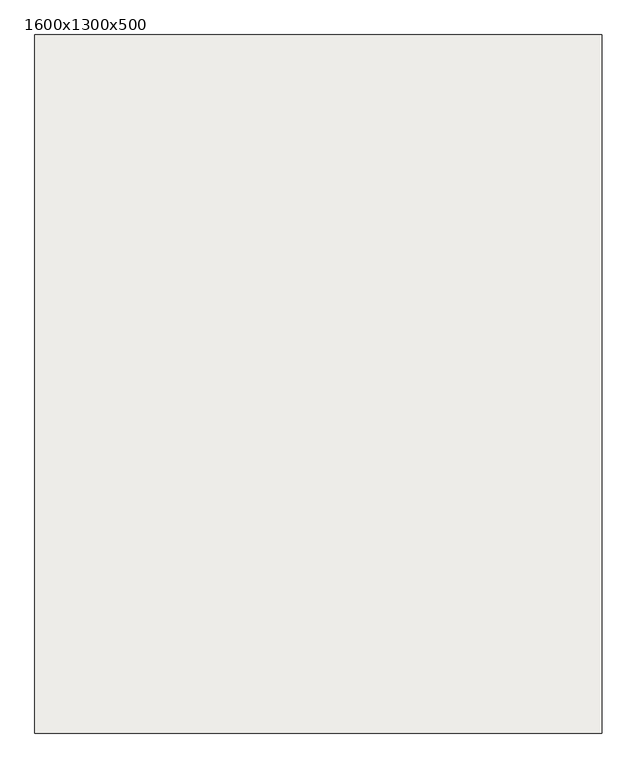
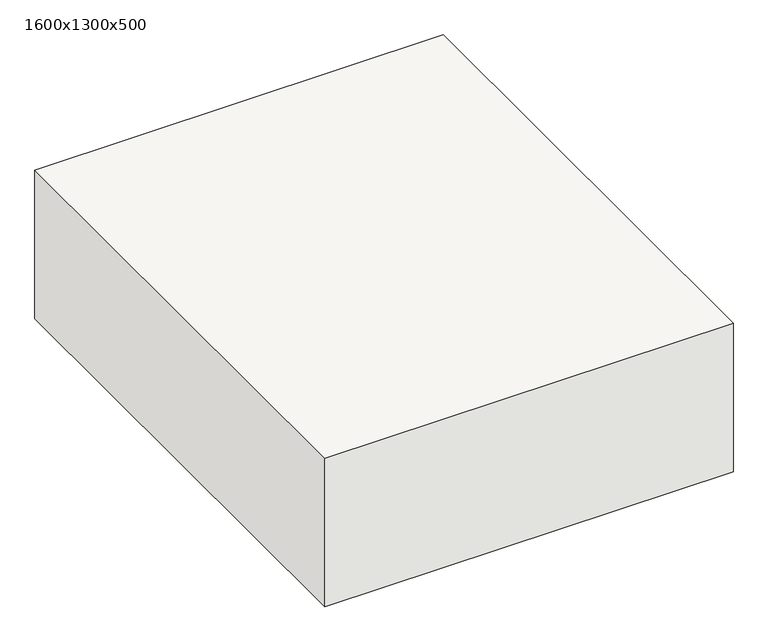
"""IFC4 building model written with IfcOpenShell, lengths in millimetres: slab geometry, Prostokąt-Podstawy_M : 1600x1300x500."""

from ifc_helpers import new_model, si_unit, frame, origin, place, context, project, spatial, polyline, outline, extrude, source, transform, mapped, element, save


def slab_1600x1300x500_7dd4b297(model_context):
    return source(origin(), model_context, "Body", "SweptSolid", [
        extrude(outline(polyline([(650.0, 800.0), (650.0, -800.0), (-650.0, -800.0), (-650.0, 800.0), (650.0, 800.0)])), frame((0.0, 0.0, -500.0), z_axis=(0.0, 0.0, 1.0), x_axis=(1.0, 0.0, 0.0)), (0.0, 0.0, 1.0), 500.0),
    ])


if __name__ == "__main__":
    model = new_model("IFC4")
    model_context = context("Model", 3, world=origin())
    ifc_project = project(units=[si_unit("LENGTHUNIT", "METRE", prefix="MILLI")], contexts=[model_context])
    site = spatial("IfcSite", under=ifc_project)
    building = spatial("IfcBuilding", under=site)
    placement = place(None, origin())
    slab_1600x1300x500_shape = slab_1600x1300x500_7dd4b297(model_context)
    element("IfcSlab", 1, ObjectType="Prostokąt-Podstawy_M : 1600x1300x500", at=placement, inside=building, context=model_context, shape_type="MappedRepresentation", body=[
        mapped(slab_1600x1300x500_shape, transform((0.0, 0.0, 0.0), x_axis=(1.0, 0.0, 0.0), y_axis=(0.0, 1.0, 0.0), z_axis=(0.0, 0.0, 1.0))),
    ])
    save(model, "model.ifc")
